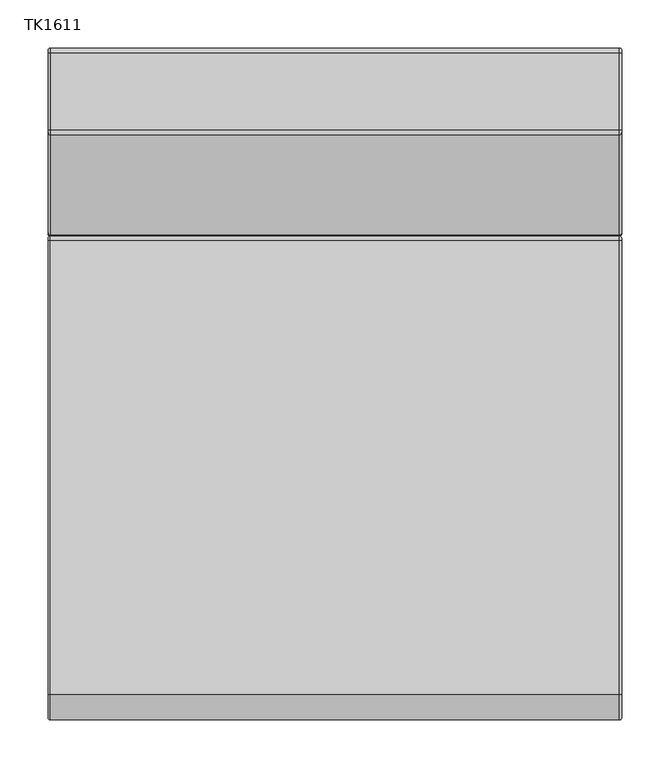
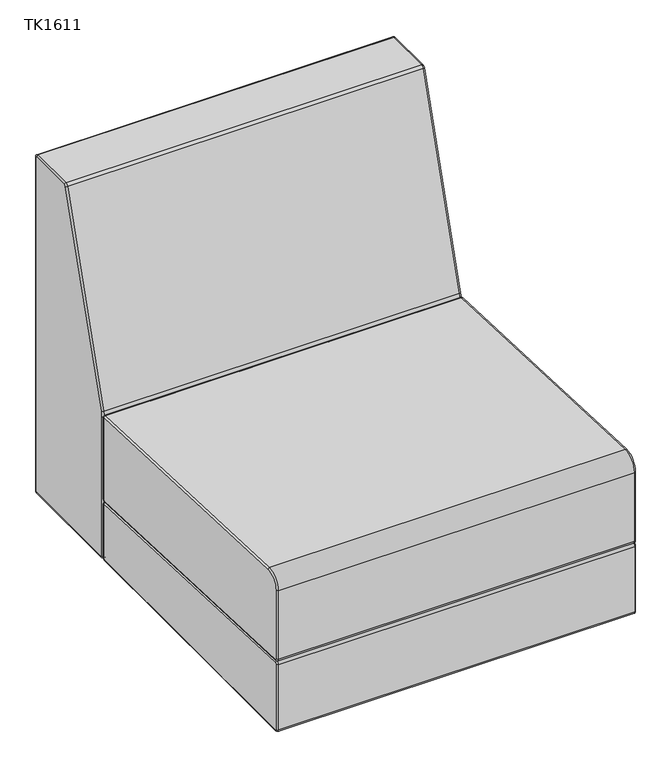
"""IFC4 building model written with IfcOpenShell, lengths in millimetres: furniture geometry, JSI-Teekan-Single_Seat_Lounge : TK1611."""

from ifc_helpers import new_model, si_unit, point, frame, origin, place, context, project, spatial, circle_curve, ellipse_curve, trimmed, source, transform, mapped, element, save
from ifc_brep_helpers import plane_surface, cylinder_surface, revolved_surface, advanced_brep


def tk1611_f8ab0853(model_context):
    return source(origin(), model_context, "Body", "AdvancedBrep", [
        advanced_brep(
        [(296.06875, 148.7693192, 295.6513391), (296.06875, 153.733973, 300.4095468), (298.45, 151.352723, 300.4095468), (298.45, 148.8703961, 298.0304429), (-296.06875, 148.7693192, 295.6513391), (-296.06875, 153.733973, 300.4095468), (-298.45, 148.8703961, 298.0304429), (-298.45, 151.352723, 300.4095468), (298.45, -344.5512855, 318.9936072), (296.06875, -344.6523625, 316.6145034), (-296.06875, -344.6523625, 316.6145034), (-298.45, -344.5512855, 318.9936072), (296.06875, -322.7527962, 467.50355), (298.45, -322.8538731, 465.1244462), (298.45, 149.0725499, 445.0745142), (296.06875, 149.1736269, 447.4536181), (-296.06875, 149.1736269, 447.4536181), (-296.06875, -322.7527962, 467.50355), (-298.45, 149.0725499, 445.0745142), (-298.45, -322.8538731, 465.1244462), (298.45, 151.352723, 442.6954104), (296.06875, 153.733973, 442.6954104), (-296.06875, 153.733973, 442.6954104), (-298.45, 151.352723, 442.6954104), (298.45, -346.8497, 321.3917439), (296.06875, -349.23095, 321.3917439), (-296.06875, -349.23095, 321.3917439), (-298.45, -346.8497, 321.3917439), (298.45, -346.8497, 442.1264425), (296.06875, -349.23095, 442.1264425), (-296.06875, -349.23095, 442.1264425), (-298.45, -346.8497, 442.1264425)],
        [
            (0, 1, circle_curve(frame((296.06875, 148.971473, 300.4095468), z_axis=(1.0, 0.0, 0.0), x_axis=(0.0, 1.0, 0.0)), 4.7625)),
            (1, 2, circle_curve(frame((296.06875, 151.352723, 300.4095468), z_axis=(0.0, 0.0, -1.0), x_axis=(1.0, 0.0, 0.0)), 2.38125)),
            (2, 3, circle_curve(frame((298.45, 148.971473, 300.4095468), z_axis=(-1.0, 0.0, 0.0), x_axis=(0.0, 1.0, 0.0)), 2.38125)),
            (3, 0, circle_curve(frame((296.06875, 148.8703961, 298.0304429), z_axis=(0.0, 0.9990987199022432, -0.042447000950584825), x_axis=(1.0, 0.0, 0.0)), 2.38125)),
            (0, 4),
            (4, 5, circle_curve(frame((-296.06875, 148.971473, 300.4095468), z_axis=(1.0, 0.0, 0.0), x_axis=(0.0, 1.0, 0.0)), 4.7625)),
            (5, 1),
            (4, 6, circle_curve(frame((-296.06875, 148.8703961, 298.0304429), z_axis=(0.0, 0.999098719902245, -0.042447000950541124), x_axis=(1.0, 0.0, 0.0)), 2.38125)),
            (6, 7, circle_curve(frame((-298.45, 148.971473, 300.4095468), z_axis=(1.0, 0.0, 0.0), x_axis=(0.0, 1.0, 0.0)), 2.38125)),
            (7, 5, circle_curve(frame((-296.06875, 151.352723, 300.4095468), z_axis=(0.0, 0.0, -1.0), x_axis=(1.0, 0.0, 0.0)), 2.38125)),
            (3, 8),
            (8, 9, circle_curve(frame((296.06875, -344.5512855, 318.9936072), z_axis=(0.0, 0.9990987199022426, -0.04244700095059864), x_axis=(1.0, 0.0, 0.0)), 2.38125)),
            (9, 0),
            (9, 10),
            (10, 4),
            (10, 11, circle_curve(frame((-296.06875, -344.5512855, 318.9936072), z_axis=(0.0, 0.9990987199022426, -0.04244700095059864), x_axis=(1.0, 0.0, 0.0)), 2.38125)),
            (11, 6),
            (12, 13, circle_curve(frame((296.06875, -322.8538731, 465.1244462), z_axis=(0.0, 0.9990987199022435, -0.0424470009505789), x_axis=(1.0, 0.0, 0.0)), 2.38125)),
            (13, 14),
            (14, 15, circle_curve(frame((296.06875, 149.0725499, 445.0745142), z_axis=(0.0, -0.9990987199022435, 0.0424470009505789), x_axis=(1.0, 0.0, 0.0)), 2.38125)),
            (15, 12),
            (15, 16),
            (16, 17),
            (17, 12),
            (16, 18, circle_curve(frame((-296.06875, 149.0725499, 445.0745142), z_axis=(0.0, -0.9990987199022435, 0.0424470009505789), x_axis=(1.0, 0.0, 0.0)), 2.38125)),
            (18, 19),
            (19, 17, circle_curve(frame((-296.06875, -322.8538731, 465.1244462), z_axis=(0.0, 0.9990987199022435, -0.0424470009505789), x_axis=(1.0, 0.0, 0.0)), 2.38125)),
            (14, 20, circle_curve(frame((298.45, 148.971473, 442.6954104), z_axis=(-1.0, 0.0, 0.0), x_axis=(0.0, 0.04244700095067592, 0.9990987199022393)), 2.38125)),
            (20, 21, circle_curve(frame((296.06875, 151.352723, 442.6954104), z_axis=(0.0, 0.0, 1.0), x_axis=(1.0, 0.0, 0.0)), 2.38125)),
            (21, 15, circle_curve(frame((296.06875, 148.971473, 442.6954104), z_axis=(1.0, 0.0, 0.0), x_axis=(0.0, 0.04244700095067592, 0.9990987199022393)), 4.7625)),
            (21, 22),
            (22, 16, circle_curve(frame((-296.06875, 148.971473, 442.6954104), z_axis=(1.0, 0.0, 0.0), x_axis=(0.0, 0.04244700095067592, 0.9990987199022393)), 4.7625)),
            (22, 23, circle_curve(frame((-296.06875, 151.352723, 442.6954104), z_axis=(0.0, 0.0, 1.0), x_axis=(1.0, 0.0, 0.0)), 2.38125)),
            (23, 18, circle_curve(frame((-298.45, 148.971473, 442.6954104), z_axis=(1.0, 0.0, 0.0), x_axis=(0.0, 0.04244700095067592, 0.9990987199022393)), 2.38125)),
            (1, 21),
            (20, 2),
            (5, 22),
            (7, 23),
            (8, 24, circle_curve(frame((298.45, -344.4494, 321.3917439), z_axis=(-1.0, 0.0, 0.0), x_axis=(0.0, -0.04244700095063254, -0.9990987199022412)), 2.4003)),
            (24, 25, circle_curve(frame((296.06875, -346.8497, 321.3917439), z_axis=(0.0, 0.0, -1.0), x_axis=(1.0, 0.0, 0.0)), 2.38125)),
            (25, 9, circle_curve(frame((296.06875, -344.4494, 321.3917439), z_axis=(1.0, 0.0, 0.0), x_axis=(0.0, -0.04244700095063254, -0.9990987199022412)), 4.78155)),
            (25, 26),
            (26, 10, circle_curve(frame((-296.06875, -344.4494, 321.3917439), z_axis=(1.0, 0.0, 0.0), x_axis=(0.0, -0.04244700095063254, -0.9990987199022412)), 4.78155)),
            (26, 27, circle_curve(frame((-296.06875, -346.8497, 321.3917439), z_axis=(0.0, 0.0, -1.0), x_axis=(1.0, 0.0, 0.0)), 2.38125)),
            (27, 11, circle_curve(frame((-298.45, -344.4494, 321.3917439), z_axis=(1.0, 0.0, 0.0), x_axis=(0.0, -0.04244700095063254, -0.9990987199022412)), 2.4003)),
            (24, 28),
            (28, 29, circle_curve(frame((296.06875, -346.8497, 442.1264425), z_axis=(0.0, 0.0, -1.0), x_axis=(1.0, 0.0, 0.0)), 2.38125)),
            (29, 25),
            (29, 30),
            (30, 26),
            (30, 31, circle_curve(frame((-296.06875, -346.8497, 442.1264425), z_axis=(0.0, 0.0, -1.0), x_axis=(1.0, 0.0, 0.0)), 2.38125)),
            (31, 27),
            (13, 28, circle_curve(frame((298.45, -323.83095, 442.1264425), z_axis=(1.0, 0.0, 0.0), x_axis=(0.0, -1.0, 0.0)), 23.01875)),
            (12, 29, circle_curve(frame((296.06875, -323.83095, 442.1264425), z_axis=(1.0, 0.0, 0.0), x_axis=(0.0, -1.0, 0.0)), 25.4)),
            (17, 30, circle_curve(frame((-296.06875, -323.83095, 442.1264425), z_axis=(1.0, 0.0, 0.0), x_axis=(0.0, -1.0, 0.0)), 25.4)),
            (19, 31, circle_curve(frame((-298.45, -323.83095, 442.1264425), z_axis=(1.0, 0.0, 0.0), x_axis=(0.0, -1.0, 0.0)), 23.01875)),
        ],
        [
            revolved_surface(trimmed(ellipse_curve(frame((296.06875, 151.352723, 300.4095468), z_axis=(0.0, 0.0, 1.0), x_axis=(1.0, 0.0, 0.0)), 2.38125, 2.38125), [point((298.45, 151.352723, 300.4095468))], [point((296.06875, 153.733973, 300.4095468))], True, "CARTESIAN"), (0.0, 148.971473, 300.4095468), (-1.0, 0.0, 0.0)),
            cylinder_surface(frame((0.0, 148.971473, 300.4095468), z_axis=(-1.0, 0.0, 0.0), x_axis=(0.0, 1.0, 0.0)), 4.7625),
            revolved_surface(trimmed(ellipse_curve(frame((-296.06875, 151.352723, 300.4095468), z_axis=(0.0, 0.0, 1.0), x_axis=(1.0, 0.0, 0.0)), 2.38125, 2.38125), [point((-296.06875, 153.733973, 300.4095468))], [point((-298.45, 151.352723, 300.4095468))], True, "CARTESIAN"), (0.0, 148.971473, 300.4095468), (-1.0, 0.0, 0.0)),
            cylinder_surface(frame((296.06875, 148.8703961, 298.0304429), z_axis=(0.0, 0.9990987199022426, -0.04244700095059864), x_axis=(1.0, 0.0, 0.0)), 2.38125),
            plane_surface(frame((296.06875, 148.7693192, 295.6513391), z_axis=(0.0, -0.04244700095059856, -0.9990987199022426), x_axis=(0.0, -0.9990987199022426, 0.04244700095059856))),
            cylinder_surface(frame((-296.06875, 148.8703961, 298.0304429), z_axis=(0.0, 0.9990987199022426, -0.04244700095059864), x_axis=(1.0, 0.0, 0.0)), 2.38125),
            cylinder_surface(frame((296.06875, -322.8538731, 465.1244462), z_axis=(0.0, -0.9990987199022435, 0.0424470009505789), x_axis=(1.0, 0.0, 0.0)), 2.38125),
            plane_surface(frame((296.06875, -322.7527962, 467.50355), z_axis=(0.0, 0.04244700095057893, 0.9990987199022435), x_axis=(0.0, 0.9990987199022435, -0.04244700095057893))),
            cylinder_surface(frame((-296.06875, -322.8538731, 465.1244462), z_axis=(0.0, -0.9990987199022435, 0.0424470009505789), x_axis=(1.0, 0.0, 0.0)), 2.38125),
            revolved_surface(trimmed(ellipse_curve(frame((296.06875, 149.0725499, 445.0745142), z_axis=(0.0, -0.9990987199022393, 0.04244700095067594), x_axis=(1.0, 0.0, 0.0)), 2.38125, 2.38125), [point((298.45, 149.0725499, 445.0745142))], [point((296.06875, 149.1736269, 447.4536181))], True, "CARTESIAN"), (0.0, 148.971473, 442.6954104), (-1.0, 0.0, 0.0)),
            cylinder_surface(frame((0.0, 148.971473, 442.6954104), z_axis=(-1.0, 0.0, 0.0), x_axis=(0.0, 0.04244700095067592, 0.9990987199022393)), 4.7625),
            revolved_surface(trimmed(ellipse_curve(frame((-296.06875, 149.0725499, 445.0745142), z_axis=(0.0, -0.9990987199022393, 0.04244700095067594), x_axis=(1.0, 0.0, 0.0)), 2.38125, 2.38125), [point((-296.06875, 149.1736269, 447.4536181))], [point((-298.45, 149.0725499, 445.0745142))], True, "CARTESIAN"), (0.0, 148.971473, 442.6954104), (-1.0, 0.0, 0.0)),
            cylinder_surface(frame((296.06875, 151.352723, 442.6954104), z_axis=(0.0, 0.0, 1.0), x_axis=(1.0, 0.0, 0.0)), 2.38125),
            plane_surface(frame((296.06875, 153.733973, 442.6954104), z_axis=(0.0, 1.0, 0.0), x_axis=(0.0, 0.0, -1.0))),
            cylinder_surface(frame((-296.06875, 151.352723, 442.6954104), z_axis=(0.0, 0.0, 1.0), x_axis=(1.0, 0.0, 0.0)), 2.38125),
            revolved_surface(trimmed(ellipse_curve(frame((296.06875, -344.5512855, 318.9936072), z_axis=(0.0, 0.9990987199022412, -0.042447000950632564), x_axis=(1.0, 0.0, 0.0)), 2.38125, 2.38125), [point((298.45, -344.5512855, 318.9936072))], [point((296.06875, -344.6523625, 316.6145034))], True, "CARTESIAN"), (0.0, -344.4494, 321.3917439), (-1.0, 0.0, 0.0)),
            cylinder_surface(frame((0.0, -344.4494, 321.3917439), z_axis=(-1.0, 0.0, 0.0), x_axis=(0.0, -0.04244700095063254, -0.9990987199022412)), 4.78155),
            revolved_surface(trimmed(ellipse_curve(frame((-296.06875, -344.5512855, 318.9936072), z_axis=(0.0, 0.9990987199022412, -0.042447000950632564), x_axis=(1.0, 0.0, 0.0)), 2.38125, 2.38125), [point((-296.06875, -344.6523625, 316.6145034))], [point((-298.45, -344.5512855, 318.9936072))], True, "CARTESIAN"), (0.0, -344.4494, 321.3917439), (-1.0, 0.0, 0.0)),
            cylinder_surface(frame((296.06875, -346.8497, 321.3917439), z_axis=(0.0, 0.0, -1.0), x_axis=(1.0, 0.0, 0.0)), 2.38125),
            plane_surface(frame((296.06875, -349.23095, 321.3917439), z_axis=(0.0, -1.0, 0.0), x_axis=(0.0, 0.0, 1.0))),
            cylinder_surface(frame((-296.06875, -346.8497, 321.3917439), z_axis=(0.0, 0.0, -1.0), x_axis=(1.0, 0.0, 0.0)), 2.38125),
            plane_surface(frame((298.45, -323.83095, 442.1264425), z_axis=(1.0, 0.0, 0.0), x_axis=(0.0, -1.0, 0.0))),
            revolved_surface(trimmed(ellipse_curve(frame((296.06875, -346.8497, 442.1264425), z_axis=(0.0, 0.0, -1.0), x_axis=(1.0, 0.0, 0.0)), 2.38125, 2.38125), [point((298.45, -346.8497, 442.1264425))], [point((296.06875, -349.23095, 442.1264425))], True, "CARTESIAN"), (0.0, -323.83095, 442.1264425), (-1.0, 0.0, 0.0)),
            cylinder_surface(frame((0.0, -323.83095, 442.1264425), z_axis=(-1.0, 0.0, 0.0), x_axis=(0.0, -1.0, 0.0)), 25.4),
            revolved_surface(trimmed(ellipse_curve(frame((-296.06875, -346.8497, 442.1264425), z_axis=(0.0, 0.0, -1.0), x_axis=(1.0, 0.0, 0.0)), 2.38125, 2.38125), [point((-296.06875, -349.23095, 442.1264425))], [point((-298.45, -346.8497, 442.1264425))], True, "CARTESIAN"), (0.0, -323.83095, 442.1264425), (-1.0, 0.0, 0.0)),
            plane_surface(frame((-298.45, -323.83095, 442.1264425), z_axis=(-1.0, 0.0, 0.0), x_axis=(0.0, -1.0, 0.0))),
        ],
        [
            (0, [[1, 2, 3, 4]]),
            (1, [[-1, 5, 6, 7]]),
            (2, [[-6, 8, 9, 10]]),
            (3, [[-4, 11, 12, 13]]),
            (4, [[-5, -13, 14, 15]]),
            (5, [[-8, -15, 16, 17]]),
            (6, [[18, 19, 20, 21]]),
            (7, [[-21, 22, 23, 24]]),
            (8, [[-23, 25, 26, 27]]),
            (9, [[-20, 28, 29, 30]]),
            (10, [[-22, -30, 31, 32]]),
            (11, [[-25, -32, 33, 34]]),
            (12, [[-2, 35, -29, 36]]),
            (13, [[-7, 37, -31, -35]]),
            (14, [[-10, 38, -33, -37]]),
            (15, [[-12, 39, 40, 41]]),
            (16, [[-14, -41, 42, 43]]),
            (17, [[-16, -43, 44, 45]]),
            (18, [[-40, 46, 47, 48]]),
            (19, [[-42, -48, 49, 50]]),
            (20, [[-44, -50, 51, 52]]),
            (21, [[-3, -36, -28, -19, 53, -46, -39, -11]]),
            (22, [[-18, 54, -47, -53]]),
            (23, [[-24, 55, -49, -54]]),
            (24, [[-27, 56, -51, -55]]),
            (25, [[-9, -17, -45, -52, -56, -26, -34, -38]]),
        ],
    ),
        advanced_brep(
        [(-296.06875, -349.25, 197.5346851), (296.06875, -349.25, 197.5346851), (296.06875, -349.25, 311.8407029), (-296.06875, -349.25, 311.8407029), (-298.45, -346.86875, 311.8407029), (-298.45, -346.86875, 197.5346851), (298.45, -346.86875, 197.5346851), (298.45, -346.86875, 311.8407029), (-296.06875, -344.2853462, 316.5989106), (296.06875, -344.2853462, 316.5989106), (296.06875, 149.169864, 295.6343219), (-296.06875, 149.169864, 295.6343219), (-298.45, 149.0687871, 293.255218), (-298.45, -344.3864231, 314.2198068), (298.45, -344.3864231, 314.2198068), (298.45, 149.0687871, 293.255218), (296.06875, 153.7302102, 290.8761142), (-296.06875, 153.7302102, 290.8761142), (-298.45, 151.3489602, 290.8761142), (298.45, 151.3489602, 290.8761142), (296.06875, 153.7302102, 197.5346851), (-296.06875, 153.7302102, 197.5346851), (-298.45, 151.3489602, 197.5346851), (298.45, 151.3489602, 197.5346851), (296.06875, 148.9677102, 192.7721851), (-296.06875, 148.9677102, 192.7721851), (-298.45, 148.9677102, 195.1534351), (298.45, 148.9677102, 195.1534351), (296.06875, -344.4875, 192.7721851), (-296.06875, -344.4875, 192.7721851), (-298.45, -344.4875, 195.1534351), (298.45, -344.4875, 195.1534351)],
        [
            (0, 1),
            (1, 2),
            (2, 3),
            (3, 0),
            (3, 4, circle_curve(frame((-296.06875, -346.86875, 311.8407029), z_axis=(0.0, 0.0, -1.0), x_axis=(0.0, -1.0, 0.0)), 2.38125)),
            (4, 5),
            (5, 0, circle_curve(frame((-296.06875, -346.86875, 197.5346851), z_axis=(0.0, 0.0, 1.0), x_axis=(0.0, -1.0, 0.0)), 2.38125)),
            (1, 6, circle_curve(frame((296.06875, -346.86875, 197.5346851), z_axis=(0.0, 0.0, 1.0), x_axis=(0.0, -1.0, 0.0)), 2.38125)),
            (6, 7),
            (7, 2, circle_curve(frame((296.06875, -346.86875, 311.8407029), z_axis=(0.0, 0.0, -1.0), x_axis=(0.0, -1.0, 0.0)), 2.38125)),
            (8, 9),
            (9, 10),
            (10, 11),
            (11, 8),
            (11, 12, circle_curve(frame((-296.06875, 149.0687871, 293.255218), z_axis=(0.0, -0.9990987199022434, 0.04244700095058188), x_axis=(0.0, 0.04244700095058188, 0.9990987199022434)), 2.38125)),
            (12, 13),
            (13, 8, circle_curve(frame((-296.06875, -344.3864231, 314.2198068), z_axis=(0.0, 0.9990987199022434, -0.04244700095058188), x_axis=(0.0, 0.04244700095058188, 0.9990987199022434)), 2.38125)),
            (9, 14, circle_curve(frame((296.06875, -344.3864231, 314.2198068), z_axis=(0.0, 0.9990987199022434, -0.04244700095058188), x_axis=(0.0, 0.04244700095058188, 0.9990987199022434)), 2.38125)),
            (14, 15),
            (15, 10, circle_curve(frame((296.06875, 149.0687871, 293.255218), z_axis=(0.0, -0.9990987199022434, 0.04244700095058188), x_axis=(0.0, 0.04244700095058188, 0.9990987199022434)), 2.38125)),
            (10, 16, circle_curve(frame((296.06875, 148.9677102, 290.8761142), z_axis=(-1.0, 0.0, 0.0), x_axis=(0.0, 0.0424470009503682, 0.9990987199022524)), 4.7625)),
            (16, 17),
            (17, 11, circle_curve(frame((-296.06875, 148.9677102, 290.8761142), z_axis=(1.0, 0.0, 0.0), x_axis=(0.0, 0.0424470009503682, 0.9990987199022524)), 4.7625)),
            (17, 18, circle_curve(frame((-296.06875, 151.3489602, 290.8761142), z_axis=(0.0, 0.0, 1.0), x_axis=(0.0, 1.0, 0.0)), 2.38125)),
            (18, 12, circle_curve(frame((-298.45, 148.9677102, 290.8761142), z_axis=(1.0, 0.0, 0.0), x_axis=(0.0, 0.0424470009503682, 0.9990987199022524)), 2.38125)),
            (15, 19, circle_curve(frame((298.45, 148.9677102, 290.8761142), z_axis=(-1.0, 0.0, 0.0), x_axis=(0.0, 0.0424470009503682, 0.9990987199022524)), 2.38125)),
            (19, 16, circle_curve(frame((296.06875, 151.3489602, 290.8761142), z_axis=(0.0, 0.0, 1.0), x_axis=(0.0, 1.0, 0.0)), 2.38125)),
            (16, 20),
            (20, 21),
            (21, 17),
            (21, 22, circle_curve(frame((-296.06875, 151.3489602, 197.5346851), z_axis=(0.0, 0.0, 1.0), x_axis=(0.0, 1.0, 0.0)), 2.38125)),
            (22, 18),
            (19, 23),
            (23, 20, circle_curve(frame((296.06875, 151.3489602, 197.5346851), z_axis=(0.0, 0.0, 1.0), x_axis=(0.0, 1.0, 0.0)), 2.38125)),
            (20, 24, circle_curve(frame((296.06875, 148.9677102, 197.5346851), z_axis=(-1.0, 0.0, 0.0), x_axis=(0.0, 1.0, 0.0)), 4.7625)),
            (24, 25),
            (25, 21, circle_curve(frame((-296.06875, 148.9677102, 197.5346851), z_axis=(1.0, 0.0, 0.0), x_axis=(0.0, 1.0, 0.0)), 4.7625)),
            (25, 26, circle_curve(frame((-296.06875, 148.9677102, 195.1534351), z_axis=(0.0, 1.0, 0.0), x_axis=(0.0, 0.0, -1.0)), 2.38125)),
            (26, 22, circle_curve(frame((-298.45, 148.9677102, 197.5346851), z_axis=(1.0, 0.0, 0.0), x_axis=(0.0, 1.0, 0.0)), 2.38125)),
            (23, 27, circle_curve(frame((298.45, 148.9677102, 197.5346851), z_axis=(-1.0, 0.0, 0.0), x_axis=(0.0, 1.0, 0.0)), 2.38125)),
            (27, 24, circle_curve(frame((296.06875, 148.9677102, 195.1534351), z_axis=(0.0, 1.0, 0.0), x_axis=(0.0, 0.0, -1.0)), 2.38125)),
            (24, 28),
            (28, 29),
            (29, 25),
            (29, 30, circle_curve(frame((-296.06875, -344.4875, 195.1534351), z_axis=(0.0, 1.0, 0.0), x_axis=(0.0, 0.0, -1.0)), 2.38125)),
            (30, 26),
            (27, 31),
            (31, 28, circle_curve(frame((296.06875, -344.4875, 195.1534351), z_axis=(0.0, 1.0, 0.0), x_axis=(0.0, 0.0, -1.0)), 2.38125)),
            (0, 29, circle_curve(frame((-296.06875, -344.4875, 197.5346851), z_axis=(1.0, 0.0, 0.0), x_axis=(0.0, 0.0, -1.0)), 4.7625)),
            (28, 1, circle_curve(frame((296.06875, -344.4875, 197.5346851), z_axis=(-1.0, 0.0, 0.0), x_axis=(0.0, 0.0, -1.0)), 4.7625)),
            (5, 30, circle_curve(frame((-298.45, -344.4875, 197.5346851), z_axis=(1.0, 0.0, 0.0), x_axis=(0.0, 0.0, -1.0)), 2.38125)),
            (31, 6, circle_curve(frame((298.45, -344.4875, 197.5346851), z_axis=(-1.0, 0.0, 0.0), x_axis=(0.0, 0.0, -1.0)), 2.38125)),
            (2, 9, circle_curve(frame((296.06875, -344.4875, 311.8407029), z_axis=(-1.0, 0.0, 0.0), x_axis=(0.0, -1.0, 0.0)), 4.7625)),
            (8, 3, circle_curve(frame((-296.06875, -344.4875, 311.8407029), z_axis=(1.0, 0.0, 0.0), x_axis=(0.0, -1.0, 0.0)), 4.7625)),
            (13, 4, circle_curve(frame((-298.45, -344.4875, 311.8407029), z_axis=(1.0, 0.0, 0.0), x_axis=(0.0, -1.0, 0.0)), 2.38125)),
            (14, 7, circle_curve(frame((298.45, -344.4875, 311.8407029), z_axis=(1.0, 0.0, 0.0), x_axis=(0.0, -1.0, 0.0)), 2.38125)),
        ],
        [
            plane_surface(frame((296.06875, -349.25, 197.5346851), z_axis=(0.0, -1.0, 0.0), x_axis=(0.0, 0.0, 1.0))),
            cylinder_surface(frame((-296.06875, -346.86875, 197.5346851), z_axis=(0.0, 0.0, -1.0), x_axis=(0.0, -1.0, 0.0)), 2.38125),
            cylinder_surface(frame((296.06875, -346.86875, 197.5346851), z_axis=(0.0, 0.0, -1.0), x_axis=(0.0, -1.0, 0.0)), 2.38125),
            plane_surface(frame((296.06875, -344.2853462, 316.5989106), z_axis=(0.0, 0.04244700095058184, 0.9990987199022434), x_axis=(0.0, 0.9990987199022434, -0.04244700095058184))),
            cylinder_surface(frame((-296.06875, -344.3864231, 314.2198068), z_axis=(0.0, -0.9990987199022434, 0.04244700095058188), x_axis=(0.0, 0.04244700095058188, 0.9990987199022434)), 2.38125),
            cylinder_surface(frame((296.06875, -344.3864231, 314.2198068), z_axis=(0.0, -0.9990987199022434, 0.04244700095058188), x_axis=(0.0, 0.04244700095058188, 0.9990987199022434)), 2.38125),
            cylinder_surface(frame((0.0, 148.9677102, 290.8761142), z_axis=(-1.0, 0.0, 0.0), x_axis=(0.0, 0.0424470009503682, 0.9990987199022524)), 4.7625),
            revolved_surface(trimmed(ellipse_curve(frame((-296.06875, 149.0687871, 293.255218), z_axis=(0.0, -0.9990987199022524, 0.042447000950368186), x_axis=(0.0, 0.042447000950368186, 0.9990987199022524)), 2.38125, 2.38125), [point((-296.06875, 149.169864, 295.6343219))], [point((-298.45, 149.0687871, 293.255218))], True, "CARTESIAN"), (0.0, 148.9677102, 290.8761142), (-1.0, 0.0, 0.0)),
            revolved_surface(trimmed(ellipse_curve(frame((296.06875, 149.0687871, 293.255218), z_axis=(0.0, -0.9990987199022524, 0.042447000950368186), x_axis=(0.0, 0.042447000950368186, 0.9990987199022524)), 2.38125, 2.38125), [point((298.45, 149.0687871, 293.255218))], [point((296.06875, 149.169864, 295.6343219))], True, "CARTESIAN"), (0.0, 148.9677102, 290.8761142), (-1.0, 0.0, 0.0)),
            plane_surface(frame((296.06875, 153.7302102, 290.8761142), z_axis=(0.0, 1.0, 0.0), x_axis=(0.0, 0.0, -1.0))),
            cylinder_surface(frame((-296.06875, 151.3489602, 290.8761142), z_axis=(0.0, 0.0, 1.0), x_axis=(0.0, 1.0, 0.0)), 2.38125),
            cylinder_surface(frame((296.06875, 151.3489602, 290.8761142), z_axis=(0.0, 0.0, 1.0), x_axis=(0.0, 1.0, 0.0)), 2.38125),
            cylinder_surface(frame((0.0, 148.9677102, 197.5346851), z_axis=(-1.0, 0.0, 0.0), x_axis=(0.0, 1.0, 0.0)), 4.7625),
            revolved_surface(trimmed(ellipse_curve(frame((-296.06875, 151.3489602, 197.5346851), z_axis=(0.0, 0.0, 1.0), x_axis=(0.0, 1.0, 0.0)), 2.38125, 2.38125), [point((-296.06875, 153.7302102, 197.5346851))], [point((-298.45, 151.3489602, 197.5346851))], True, "CARTESIAN"), (0.0, 148.9677102, 197.5346851), (-1.0, 0.0, 0.0)),
            revolved_surface(trimmed(ellipse_curve(frame((296.06875, 151.3489602, 197.5346851), z_axis=(0.0, 0.0, 1.0), x_axis=(0.0, 1.0, 0.0)), 2.38125, 2.38125), [point((298.45, 151.3489602, 197.5346851))], [point((296.06875, 153.7302102, 197.5346851))], True, "CARTESIAN"), (0.0, 148.9677102, 197.5346851), (-1.0, 0.0, 0.0)),
            plane_surface(frame((296.06875, 148.9677102, 192.7721851), z_axis=(0.0, 0.0, -1.0), x_axis=(0.0, -1.0, 0.0))),
            cylinder_surface(frame((-296.06875, 148.9677102, 195.1534351), z_axis=(0.0, 1.0, 0.0), x_axis=(0.0, 0.0, -1.0)), 2.38125),
            cylinder_surface(frame((296.06875, 148.9677102, 195.1534351), z_axis=(0.0, 1.0, 0.0), x_axis=(0.0, 0.0, -1.0)), 2.38125),
            cylinder_surface(frame((0.0, -344.4875, 197.5346851), z_axis=(-1.0, 0.0, 0.0), x_axis=(0.0, 0.0, -1.0)), 4.7625),
            revolved_surface(trimmed(ellipse_curve(frame((-296.06875, -344.4875, 195.1534351), z_axis=(0.0, 1.0, 0.0), x_axis=(0.0, 0.0, -1.0)), 2.38125, 2.38125), [point((-296.06875, -344.4875, 192.7721851))], [point((-298.45, -344.4875, 195.1534351))], True, "CARTESIAN"), (0.0, -344.4875, 197.5346851), (-1.0, 0.0, 0.0)),
            revolved_surface(trimmed(ellipse_curve(frame((296.06875, -344.4875, 195.1534351), z_axis=(0.0, 1.0, 0.0), x_axis=(0.0, 0.0, -1.0)), 2.38125, 2.38125), [point((298.45, -344.4875, 195.1534351))], [point((296.06875, -344.4875, 192.7721851))], True, "CARTESIAN"), (0.0, -344.4875, 197.5346851), (-1.0, 0.0, 0.0)),
            cylinder_surface(frame((0.0, -344.4875, 311.8407029), z_axis=(-1.0, 0.0, 0.0), x_axis=(0.0, -1.0, 0.0)), 4.7625),
            revolved_surface(trimmed(ellipse_curve(frame((-296.06875, -346.86875, 311.8407029), z_axis=(0.0, 0.0, -1.0), x_axis=(0.0, -1.0, 0.0)), 2.38125, 2.38125), [point((-296.06875, -349.25, 311.8407029))], [point((-298.45, -346.86875, 311.8407029))], True, "CARTESIAN"), (0.0, -344.4875, 311.8407029), (-1.0, 0.0, 0.0)),
            plane_surface(frame((-298.45, -344.4875, 311.8407029), z_axis=(-1.0, 0.0, 0.0), x_axis=(0.0, -1.0, 0.0))),
            plane_surface(frame((298.45, -344.4875, 311.8407029), z_axis=(1.0, 0.0, 0.0), x_axis=(0.0, -1.0, 0.0))),
            revolved_surface(trimmed(ellipse_curve(frame((296.06875, -346.86875, 311.8407029), z_axis=(0.0, 0.0, -1.0), x_axis=(0.0, -1.0, 0.0)), 2.38125, 2.38125), [point((298.45, -346.86875, 311.8407029))], [point((296.06875, -349.25, 311.8407029))], True, "CARTESIAN"), (0.0, -344.4875, 311.8407029), (-1.0, 0.0, 0.0)),
        ],
        [
            (0, [[1, 2, 3, 4]]),
            (1, [[-4, 5, 6, 7]]),
            (2, [[-2, 8, 9, 10]]),
            (3, [[11, 12, 13, 14]]),
            (4, [[-14, 15, 16, 17]]),
            (5, [[-12, 18, 19, 20]]),
            (6, [[-13, 21, 22, 23]]),
            (7, [[-15, -23, 24, 25]]),
            (8, [[-20, 26, 27, -21]]),
            (9, [[-22, 28, 29, 30]]),
            (10, [[-24, -30, 31, 32]]),
            (11, [[-27, 33, 34, -28]]),
            (12, [[-29, 35, 36, 37]]),
            (13, [[-31, -37, 38, 39]]),
            (14, [[-34, 40, 41, -35]]),
            (15, [[-36, 42, 43, 44]]),
            (16, [[-38, -44, 45, 46]]),
            (17, [[-41, 47, 48, -42]]),
            (18, [[-1, 49, -43, 50]]),
            (19, [[-7, 51, -45, -49]]),
            (20, [[-8, -50, -48, 52]]),
            (21, [[-3, 53, -11, 54]]),
            (22, [[-5, -54, -17, 55]]),
            (23, [[-6, -55, -16, -25, -32, -39, -46, -51]]),
            (24, [[-9, -52, -47, -40, -33, -26, -19, 56]]),
            (25, [[-10, -56, -18, -53]]),
        ],
    ),
        advanced_brep(
        [(298.45, 261.4671324, 783.3496278), (298.45, 263.7394056, 785.01875), (296.06875, 263.7394056, 787.4), (296.06875, 259.1948592, 784.0617556), (-296.06875, 259.1948592, 784.0617556), (-296.06875, 263.7394056, 787.4), (-298.45, 263.7394056, 785.01875), (-298.45, 261.4671324, 783.3496278), (296.06875, 155.07802, 451.8434221), (298.45, 157.3502932, 451.1312943), (-298.45, 157.3502932, 451.1312943), (-296.06875, 155.07802, 451.8434221), (296.06875, 153.733973, 443.0605128), (298.45, 156.115223, 443.0605128), (-298.45, 156.115223, 443.0605128), (-296.06875, 153.733973, 443.0605128), (296.06875, 153.733973, 197.5346851), (298.45, 156.115223, 197.5346851), (-298.45, 156.115223, 197.5346851), (-296.06875, 153.733973, 197.5346851), (296.06875, 158.496473, 192.7721851), (298.45, 158.496473, 195.1534351), (-298.45, 158.496473, 195.1534351), (-296.06875, 158.496473, 192.7721851), (296.06875, 344.4875, 192.7721851), (298.45, 344.4875, 195.1534351), (-298.45, 344.4875, 195.1534351), (-296.06875, 344.4875, 192.7721851), (296.06875, 349.25, 197.5346851), (298.45, 346.86875, 197.5346851), (-298.45, 346.86875, 197.5346851), (-296.06875, 349.25, 197.5346851), (296.06875, 349.25, 782.6375), (298.45, 346.86875, 782.6375), (-298.45, 346.86875, 782.6375), (-296.06875, 349.25, 782.6375), (296.06875, 344.4875, 787.4), (298.45, 344.4875, 785.01875), (-298.45, 344.4875, 785.01875), (-296.06875, 344.4875, 787.4)],
        [
            (0, 1, circle_curve(frame((298.45, 263.7394056, 782.6375), z_axis=(-1.0, 0.0, 0.0), x_axis=(0.0, 0.0, 1.0)), 2.38125)),
            (1, 2, circle_curve(frame((296.06875, 263.7394056, 785.01875), z_axis=(0.0, -1.0, 0.0), x_axis=(0.0, 0.0, -1.0)), 2.38125)),
            (2, 3, circle_curve(frame((296.06875, 263.7394056, 782.6375), z_axis=(1.0, 0.0, 0.0), x_axis=(0.0, 0.0, 1.0)), 4.7625)),
            (3, 0, circle_curve(frame((296.06875, 261.4671324, 783.3496278), z_axis=(0.0, 0.2990562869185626, 0.9542354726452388), x_axis=(0.0, 0.9542354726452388, -0.2990562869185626)), 2.38125)),
            (4, 5, circle_curve(frame((-296.06875, 263.7394056, 782.6375), z_axis=(-1.0, 0.0, 0.0), x_axis=(0.0, 0.0, 1.0)), 4.7625)),
            (5, 6, circle_curve(frame((-296.06875, 263.7394056, 785.01875), z_axis=(0.0, -1.0, 0.0), x_axis=(0.0, 0.0, -1.0)), 2.38125)),
            (6, 7, circle_curve(frame((-298.45, 263.7394056, 782.6375), z_axis=(1.0, 0.0, 0.0), x_axis=(0.0, 0.0, 1.0)), 2.38125)),
            (7, 4, circle_curve(frame((-296.06875, 261.4671324, 783.3496278), z_axis=(0.0, 0.29905628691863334, 0.9542354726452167), x_axis=(0.0, 0.9542354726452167, -0.29905628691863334)), 2.38125)),
            (2, 5),
            (4, 3),
            (3, 8),
            (8, 9, circle_curve(frame((296.06875, 157.3502932, 451.1312943), z_axis=(0.0, 0.29905628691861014, 0.954235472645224), x_axis=(0.0, 0.954235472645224, -0.29905628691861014)), 2.38125)),
            (9, 0),
            (7, 10),
            (10, 11, circle_curve(frame((-296.06875, 157.3502932, 451.1312943), z_axis=(0.0, 0.29905628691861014, 0.954235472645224), x_axis=(0.0, 0.954235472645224, -0.29905628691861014)), 2.38125)),
            (11, 4),
            (11, 8),
            (8, 12, circle_curve(frame((296.06875, 183.102723, 443.0605128), z_axis=(1.0, 0.0, 0.0), x_axis=(0.0, -0.9542354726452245, 0.29905628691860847)), 29.36875)),
            (12, 13, circle_curve(frame((296.06875, 156.115223, 443.0605128), z_axis=(0.0, 0.0, 1.0), x_axis=(0.0, 1.0, 0.0)), 2.38125)),
            (13, 9, circle_curve(frame((298.45, 183.102723, 443.0605128), z_axis=(-1.0, 0.0, 0.0), x_axis=(0.0, -0.9542354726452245, 0.29905628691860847)), 26.9875)),
            (10, 14, circle_curve(frame((-298.45, 183.102723, 443.0605128), z_axis=(1.0, 0.0, 0.0), x_axis=(0.0, -0.9542354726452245, 0.29905628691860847)), 26.9875)),
            (14, 15, circle_curve(frame((-296.06875, 156.115223, 443.0605128), z_axis=(0.0, 0.0, 1.0), x_axis=(0.0, 1.0, 0.0)), 2.38125)),
            (15, 11, circle_curve(frame((-296.06875, 183.102723, 443.0605128), z_axis=(-1.0, 0.0, 0.0), x_axis=(0.0, -0.9542354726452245, 0.29905628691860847)), 29.36875)),
            (15, 12),
            (12, 16),
            (16, 17, circle_curve(frame((296.06875, 156.115223, 197.5346851), z_axis=(0.0, 0.0, 1.0), x_axis=(0.0, 1.0, 0.0)), 2.38125)),
            (17, 13),
            (14, 18),
            (18, 19, circle_curve(frame((-296.06875, 156.115223, 197.5346851), z_axis=(0.0, 0.0, 1.0), x_axis=(0.0, 1.0, 0.0)), 2.38125)),
            (19, 15),
            (19, 16),
            (16, 20, circle_curve(frame((296.06875, 158.496473, 197.5346851), z_axis=(1.0, 0.0, 0.0), x_axis=(0.0, -1.0, 0.0)), 4.7625)),
            (20, 21, circle_curve(frame((296.06875, 158.496473, 195.1534351), z_axis=(0.0, -1.0, 0.0), x_axis=(0.0, 0.0, 1.0)), 2.38125)),
            (21, 17, circle_curve(frame((298.45, 158.496473, 197.5346851), z_axis=(-1.0, 0.0, 0.0), x_axis=(0.0, -1.0, 0.0)), 2.38125)),
            (18, 22, circle_curve(frame((-298.45, 158.496473, 197.5346851), z_axis=(1.0, 0.0, 0.0), x_axis=(0.0, -1.0, 0.0)), 2.38125)),
            (22, 23, circle_curve(frame((-296.06875, 158.496473, 195.1534351), z_axis=(0.0, -1.0, 0.0), x_axis=(0.0, 0.0, 1.0)), 2.38125)),
            (23, 19, circle_curve(frame((-296.06875, 158.496473, 197.5346851), z_axis=(-1.0, 0.0, 0.0), x_axis=(0.0, -1.0, 0.0)), 4.7625)),
            (23, 20),
            (20, 24),
            (24, 25, circle_curve(frame((296.06875, 344.4875, 195.1534351), z_axis=(0.0, -1.0, 0.0), x_axis=(0.0, 0.0, 1.0)), 2.38125)),
            (25, 21),
            (22, 26),
            (26, 27, circle_curve(frame((-296.06875, 344.4875, 195.1534351), z_axis=(0.0, -1.0, 0.0), x_axis=(0.0, 0.0, 1.0)), 2.38125)),
            (27, 23),
            (27, 24),
            (24, 28, circle_curve(frame((296.06875, 344.4875, 197.5346851), z_axis=(1.0, 0.0, 0.0), x_axis=(0.0, 0.0, -1.0)), 4.7625)),
            (28, 29, circle_curve(frame((296.06875, 346.86875, 197.5346851), z_axis=(0.0, 0.0, -1.0), x_axis=(0.0, -1.0, 0.0)), 2.38125)),
            (29, 25, circle_curve(frame((298.45, 344.4875, 197.5346851), z_axis=(-1.0, 0.0, 0.0), x_axis=(0.0, 0.0, -1.0)), 2.38125)),
            (26, 30, circle_curve(frame((-298.45, 344.4875, 197.5346851), z_axis=(1.0, 0.0, 0.0), x_axis=(0.0, 0.0, -1.0)), 2.38125)),
            (30, 31, circle_curve(frame((-296.06875, 346.86875, 197.5346851), z_axis=(0.0, 0.0, -1.0), x_axis=(0.0, -1.0, 0.0)), 2.38125)),
            (31, 27, circle_curve(frame((-296.06875, 344.4875, 197.5346851), z_axis=(-1.0, 0.0, 0.0), x_axis=(0.0, 0.0, -1.0)), 4.7625)),
            (31, 28),
            (28, 32),
            (32, 33, circle_curve(frame((296.06875, 346.86875, 782.6375), z_axis=(0.0, 0.0, -1.0), x_axis=(0.0, -1.0, 0.0)), 2.38125)),
            (33, 29),
            (30, 34),
            (34, 35, circle_curve(frame((-296.06875, 346.86875, 782.6375), z_axis=(0.0, 0.0, -1.0), x_axis=(0.0, -1.0, 0.0)), 2.38125)),
            (35, 31),
            (35, 32),
            (32, 36, circle_curve(frame((296.06875, 344.4875, 782.6375), z_axis=(1.0, 0.0, 0.0), x_axis=(0.0, 1.0, 0.0)), 4.7625)),
            (36, 37, circle_curve(frame((296.06875, 344.4875, 785.01875), z_axis=(0.0, 1.0, 0.0), x_axis=(0.0, 0.0, -1.0)), 2.38125)),
            (37, 33, circle_curve(frame((298.45, 344.4875, 782.6375), z_axis=(-1.0, 0.0, 0.0), x_axis=(0.0, 1.0, 0.0)), 2.38125)),
            (34, 38, circle_curve(frame((-298.45, 344.4875, 782.6375), z_axis=(1.0, 0.0, 0.0), x_axis=(0.0, 1.0, 0.0)), 2.38125)),
            (38, 39, circle_curve(frame((-296.06875, 344.4875, 785.01875), z_axis=(0.0, 1.0, 0.0), x_axis=(0.0, 0.0, -1.0)), 2.38125)),
            (39, 35, circle_curve(frame((-296.06875, 344.4875, 782.6375), z_axis=(-1.0, 0.0, 0.0), x_axis=(0.0, 1.0, 0.0)), 4.7625)),
            (39, 36),
            (1, 37),
            (36, 2),
            (6, 38),
            (5, 39),
        ],
        [
            revolved_surface(trimmed(ellipse_curve(frame((296.06875, 263.7394056, 785.01875), z_axis=(0.0, 1.0, 0.0), x_axis=(0.0, 0.0, -1.0)), 2.38125, 2.38125), [point((296.06875, 263.7394056, 787.4))], [point((298.45, 263.7394056, 785.01875))], True, "CARTESIAN"), (0.0, 263.7394056, 782.6375), (1.0, 0.0, 0.0)),
            revolved_surface(trimmed(ellipse_curve(frame((-296.06875, 263.7394056, 785.01875), z_axis=(0.0, 1.0, 0.0), x_axis=(0.0, 0.0, -1.0)), 2.38125, 2.38125), [point((-298.45, 263.7394056, 785.01875))], [point((-296.06875, 263.7394056, 787.4))], True, "CARTESIAN"), (0.0, 263.7394056, 782.6375), (1.0, 0.0, 0.0)),
            cylinder_surface(frame((0.0, 263.7394056, 782.6375), z_axis=(1.0, 0.0, 0.0), x_axis=(0.0, 0.0, 1.0)), 4.7625),
            cylinder_surface(frame((296.06875, 261.4671324, 783.3496278), z_axis=(0.0, 0.29905628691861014, 0.954235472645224), x_axis=(0.0, 0.954235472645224, -0.29905628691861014)), 2.38125),
            cylinder_surface(frame((-296.06875, 261.4671324, 783.3496278), z_axis=(0.0, 0.29905628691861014, 0.954235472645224), x_axis=(0.0, 0.954235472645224, -0.29905628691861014)), 2.38125),
            plane_surface(frame((-296.06875, 259.1948592, 784.0617556), z_axis=(0.0, -0.9542354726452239, 0.2990562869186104), x_axis=(0.0, -0.2990562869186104, -0.9542354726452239))),
            revolved_surface(trimmed(ellipse_curve(frame((296.06875, 157.3502932, 451.1312943), z_axis=(0.0, 0.299056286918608, 0.9542354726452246), x_axis=(0.0, 0.9542354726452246, -0.299056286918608)), 2.38125, 2.38125), [point((296.06875, 155.07802, 451.8434221))], [point((298.45, 157.3502932, 451.1312943))], True, "CARTESIAN"), (0.0, 183.102723, 443.0605128), (1.0, 0.0, 0.0)),
            revolved_surface(trimmed(ellipse_curve(frame((-296.06875, 157.3502932, 451.1312943), z_axis=(0.0, 0.299056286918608, 0.9542354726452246), x_axis=(0.0, 0.9542354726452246, -0.299056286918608)), 2.38125, 2.38125), [point((-298.45, 157.3502932, 451.1312943))], [point((-296.06875, 155.07802, 451.8434221))], True, "CARTESIAN"), (0.0, 183.102723, 443.0605128), (1.0, 0.0, 0.0)),
            cylinder_surface(frame((0.0, 183.102723, 443.0605128), z_axis=(1.0, 0.0, 0.0), x_axis=(0.0, -0.9542354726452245, 0.29905628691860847)), 29.36875),
            cylinder_surface(frame((296.06875, 156.115223, 443.0605128), z_axis=(0.0, 0.0, 1.0), x_axis=(0.0, 1.0, 0.0)), 2.38125),
            cylinder_surface(frame((-296.06875, 156.115223, 443.0605128), z_axis=(0.0, 0.0, 1.0), x_axis=(0.0, 1.0, 0.0)), 2.38125),
            plane_surface(frame((-296.06875, 153.733973, 443.0605128), z_axis=(0.0, -1.0, 0.0), x_axis=(0.0, 0.0, -1.0))),
            revolved_surface(trimmed(ellipse_curve(frame((296.06875, 156.115223, 197.5346851), z_axis=(0.0, 0.0, 1.0), x_axis=(0.0, 1.0, 0.0)), 2.38125, 2.38125), [point((296.06875, 153.733973, 197.5346851))], [point((298.45, 156.115223, 197.5346851))], True, "CARTESIAN"), (0.0, 158.496473, 197.5346851), (1.0, 0.0, 0.0)),
            revolved_surface(trimmed(ellipse_curve(frame((-296.06875, 156.115223, 197.5346851), z_axis=(0.0, 0.0, 1.0), x_axis=(0.0, 1.0, 0.0)), 2.38125, 2.38125), [point((-298.45, 156.115223, 197.5346851))], [point((-296.06875, 153.733973, 197.5346851))], True, "CARTESIAN"), (0.0, 158.496473, 197.5346851), (1.0, 0.0, 0.0)),
            cylinder_surface(frame((0.0, 158.496473, 197.5346851), z_axis=(1.0, 0.0, 0.0), x_axis=(0.0, -1.0, 0.0)), 4.7625),
            cylinder_surface(frame((296.06875, 158.496473, 195.1534351), z_axis=(0.0, -1.0, 0.0), x_axis=(0.0, 0.0, 1.0)), 2.38125),
            cylinder_surface(frame((-296.06875, 158.496473, 195.1534351), z_axis=(0.0, -1.0, 0.0), x_axis=(0.0, 0.0, 1.0)), 2.38125),
            plane_surface(frame((-296.06875, 158.496473, 192.7721851), z_axis=(0.0, 0.0, -1.0), x_axis=(0.0, 1.0, 0.0))),
            revolved_surface(trimmed(ellipse_curve(frame((296.06875, 344.4875, 195.1534351), z_axis=(0.0, -1.0, 0.0), x_axis=(0.0, 0.0, 1.0)), 2.38125, 2.38125), [point((296.06875, 344.4875, 192.7721851))], [point((298.45, 344.4875, 195.1534351))], True, "CARTESIAN"), (0.0, 344.4875, 197.5346851), (1.0, 0.0, 0.0)),
            revolved_surface(trimmed(ellipse_curve(frame((-296.06875, 344.4875, 195.1534351), z_axis=(0.0, -1.0, 0.0), x_axis=(0.0, 0.0, 1.0)), 2.38125, 2.38125), [point((-298.45, 344.4875, 195.1534351))], [point((-296.06875, 344.4875, 192.7721851))], True, "CARTESIAN"), (0.0, 344.4875, 197.5346851), (1.0, 0.0, 0.0)),
            cylinder_surface(frame((0.0, 344.4875, 197.5346851), z_axis=(1.0, 0.0, 0.0), x_axis=(0.0, 0.0, -1.0)), 4.7625),
            cylinder_surface(frame((296.06875, 346.86875, 197.5346851), z_axis=(0.0, 0.0, -1.0), x_axis=(0.0, -1.0, 0.0)), 2.38125),
            cylinder_surface(frame((-296.06875, 346.86875, 197.5346851), z_axis=(0.0, 0.0, -1.0), x_axis=(0.0, -1.0, 0.0)), 2.38125),
            plane_surface(frame((-296.06875, 349.25, 197.5346851), z_axis=(0.0, 1.0, 0.0), x_axis=(0.0, 0.0, 1.0))),
            revolved_surface(trimmed(ellipse_curve(frame((296.06875, 346.86875, 782.6375), z_axis=(0.0, 0.0, -1.0), x_axis=(0.0, -1.0, 0.0)), 2.38125, 2.38125), [point((296.06875, 349.25, 782.6375))], [point((298.45, 346.86875, 782.6375))], True, "CARTESIAN"), (0.0, 344.4875, 782.6375), (1.0, 0.0, 0.0)),
            revolved_surface(trimmed(ellipse_curve(frame((-296.06875, 346.86875, 782.6375), z_axis=(0.0, 0.0, -1.0), x_axis=(0.0, -1.0, 0.0)), 2.38125, 2.38125), [point((-298.45, 346.86875, 782.6375))], [point((-296.06875, 349.25, 782.6375))], True, "CARTESIAN"), (0.0, 344.4875, 782.6375), (1.0, 0.0, 0.0)),
            cylinder_surface(frame((0.0, 344.4875, 782.6375), z_axis=(1.0, 0.0, 0.0), x_axis=(0.0, 1.0, 0.0)), 4.7625),
            cylinder_surface(frame((296.06875, 344.4875, 785.01875), z_axis=(0.0, 1.0, 0.0), x_axis=(0.0, 0.0, -1.0)), 2.38125),
            plane_surface(frame((298.45, 344.4875, 785.01875), z_axis=(1.0, 0.0, 0.0), x_axis=(0.0, -1.0, 0.0))),
            plane_surface(frame((-298.45, 344.4875, 783.43125), z_axis=(-1.0, 0.0, 0.0), x_axis=(0.0, -1.0, 0.0))),
            cylinder_surface(frame((-296.06875, 344.4875, 785.01875), z_axis=(0.0, 1.0, 0.0), x_axis=(0.0, 0.0, -1.0)), 2.38125),
            plane_surface(frame((-296.06875, 344.4875, 787.4), z_axis=(0.0, 0.0, 1.0), x_axis=(0.0, -1.0, 0.0))),
        ],
        [
            (0, [[1, 2, 3, 4]]),
            (1, [[5, 6, 7, 8]]),
            (2, [[-3, 9, -5, 10]]),
            (3, [[-4, 11, 12, 13]]),
            (4, [[-8, 14, 15, 16]]),
            (5, [[-10, -16, 17, -11]]),
            (6, [[-12, 18, 19, 20]]),
            (7, [[-15, 21, 22, 23]]),
            (8, [[-17, -23, 24, -18]]),
            (9, [[-19, 25, 26, 27]]),
            (10, [[-22, 28, 29, 30]]),
            (11, [[-24, -30, 31, -25]]),
            (12, [[-26, 32, 33, 34]]),
            (13, [[-29, 35, 36, 37]]),
            (14, [[-31, -37, 38, -32]]),
            (15, [[-33, 39, 40, 41]]),
            (16, [[-36, 42, 43, 44]]),
            (17, [[-38, -44, 45, -39]]),
            (18, [[-40, 46, 47, 48]]),
            (19, [[-43, 49, 50, 51]]),
            (20, [[-45, -51, 52, -46]]),
            (21, [[-47, 53, 54, 55]]),
            (22, [[-50, 56, 57, 58]]),
            (23, [[-52, -58, 59, -53]]),
            (24, [[-54, 60, 61, 62]]),
            (25, [[-57, 63, 64, 65]]),
            (26, [[-59, -65, 66, -60]]),
            (27, [[-2, 67, -61, 68]]),
            (28, [[-1, -13, -20, -27, -34, -41, -48, -55, -62, -67]]),
            (29, [[-7, 69, -63, -56, -49, -42, -35, -28, -21, -14]]),
            (30, [[-6, 70, -64, -69]]),
            (31, [[-9, -68, -66, -70]]),
        ],
    ),
    ])


if __name__ == "__main__":
    model = new_model("IFC4")
    model_context = context("Model", 3, world=origin())
    ifc_project = project(units=[si_unit("LENGTHUNIT", "METRE", prefix="MILLI")], contexts=[model_context])
    site = spatial("IfcSite", under=ifc_project)
    building = spatial("IfcBuilding", under=site)
    placement = place(None, origin())
    tk1611_shape = tk1611_f8ab0853(model_context)
    element("IfcFurniture", 1, ObjectType="JSI-Teekan-Single_Seat_Lounge : TK1611", at=placement, inside=building, context=model_context, shape_type="MappedRepresentation", body=[
        mapped(tk1611_shape, transform((0.0, 0.0, 0.0), x_axis=(1.0, 0.0, 0.0), y_axis=(0.0, 1.0, 0.0), z_axis=(0.0, 0.0, 1.0))),
    ])
    save(model, "model.ifc")
